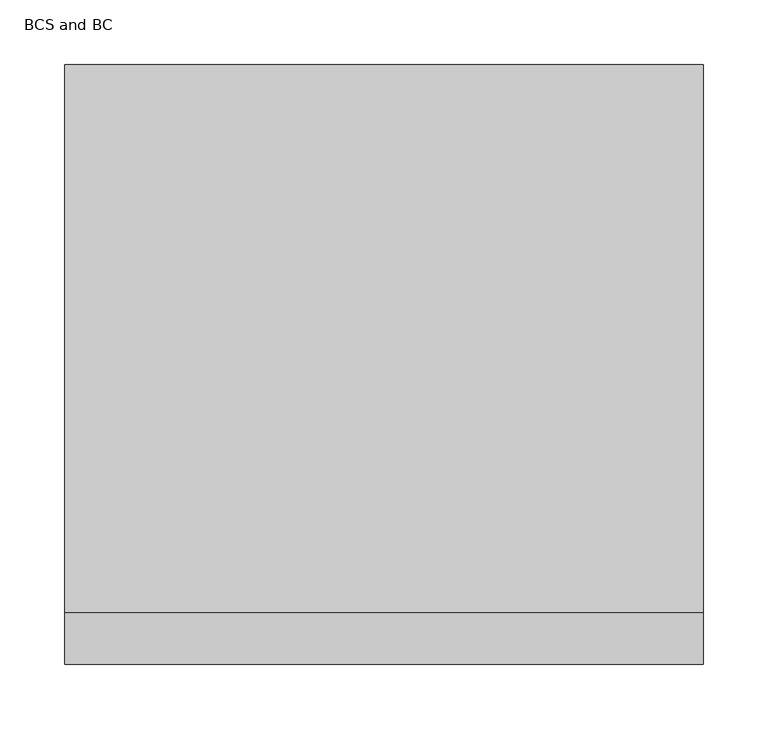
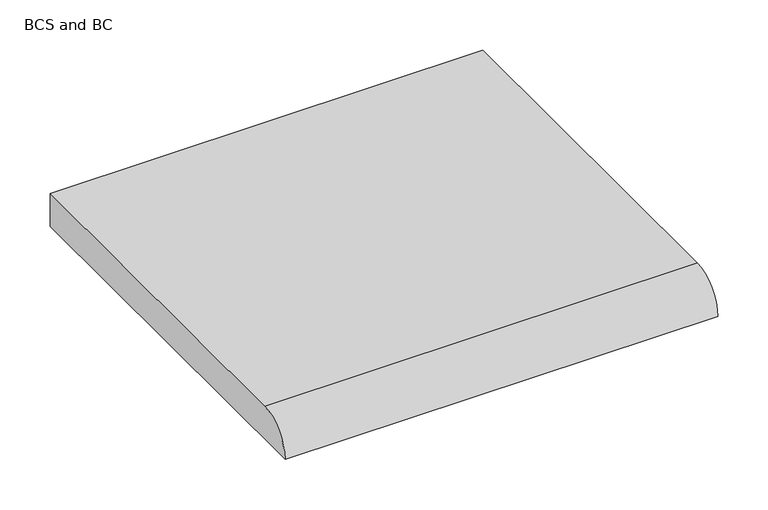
"""IFC4 building model written with IfcOpenShell, lengths in millimetres: flow terminal geometry, z_PlumFixt_Zip_Vent Tray : BCS and BC."""

from ifc_helpers import new_model, si_unit, point, frame, frame_2d, origin, place, context, project, spatial, polyline, circle_curve, trimmed, segment, composite_curve, outline, extrude, source, transform, mapped, element, save


def bcs_and_bc_6de74493(model_context):
    return source(origin(), model_context, "Body", "SweptSolid", [
        extrude(outline(composite_curve([segment(polyline([(-302.5, 40.0), (122.5, 40.0), (122.5, 0.0), (-342.5, 0.0)]), True, "CONTINUOUS"), segment(trimmed(circle_curve(frame_2d((-302.5, 0.0)), 40.0), [point((-342.5, 0.0))], [point((-302.5, 40.0))], False, "CARTESIAN"), True, "CONTINUOUS")], self_intersect=False)), frame((-246.5, 0.0, 0.0), z_axis=(1.0, 0.0, 0.0), x_axis=(0.0, 1.0, 0.0)), (0.0, 0.0, 1.0), 495.0),
    ])


if __name__ == "__main__":
    model = new_model("IFC4")
    model_context = context("Model", 3, world=origin())
    ifc_project = project(units=[si_unit("LENGTHUNIT", "METRE", prefix="MILLI")], contexts=[model_context])
    site = spatial("IfcSite", under=ifc_project)
    building = spatial("IfcBuilding", under=site)
    placement = place(None, origin())
    bcs_and_bc_shape = bcs_and_bc_6de74493(model_context)
    element("IfcFlowTerminal", 1, ObjectType="z_PlumFixt_Zip_Vent Tray : BCS and BC", at=placement, inside=building, context=model_context, shape_type="MappedRepresentation", body=[
        mapped(bcs_and_bc_shape, transform((0.0, 0.0, 0.0), x_axis=(1.0, 0.0, 0.0), y_axis=(0.0, 1.0, 0.0), z_axis=(0.0, 0.0, 1.0))),
    ])
    save(model, "model.ifc")
